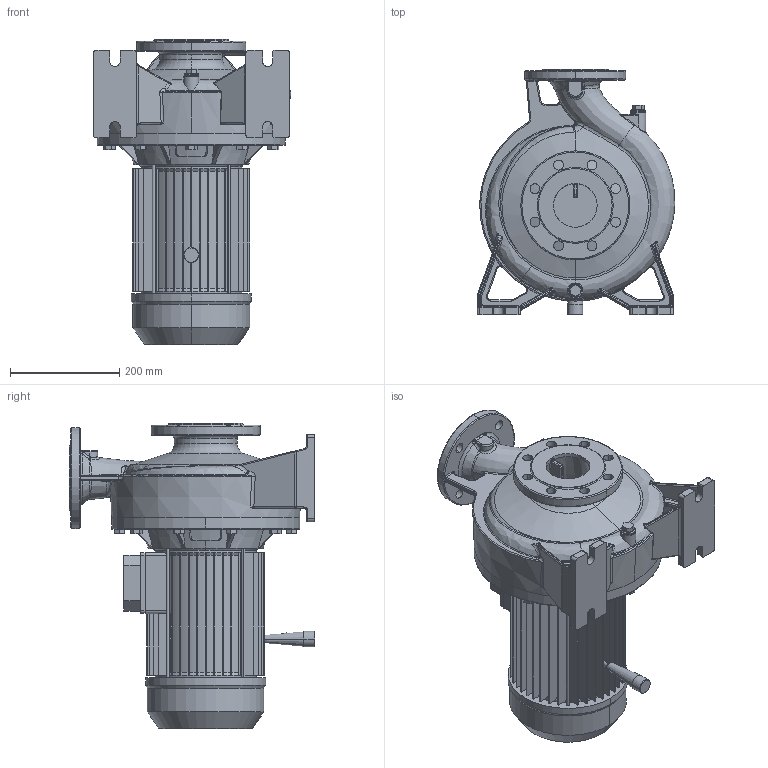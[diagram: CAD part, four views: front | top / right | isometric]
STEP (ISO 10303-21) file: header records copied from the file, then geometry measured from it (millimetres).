
FILE_DESCRIPTION((''),'2;1');
FILE_NAME('3M4_65-250_4_IE2_ASM','2012-03-14T',('Rosa'),('"Ebara Pumps Europe +39.444.706811"'),'PRO/ENGINEER BY PARAMETRIC TECHNOLOGY CORPORATION, 2009360','PRO/ENGINEER BY PARAMETRIC TECHNOLOGY CORPORATION, 2009360','');
FILE_SCHEMA(('AUTOMOTIVE_DESIGN { 1 0 10303 214 1 1 1 1 }'));
Length unit declared in the file: millimetre
Products named in the file (5): CORPO_POMPA_65-250; SUPPORTO_3M_266_112; MEC_112X160_180_IE2; 72182; 3M4_65-250_4_IE2_ASM
Assembly tree (4 placements, depth 2):
  3M4_65-250_4_IE2_ASM
    CORPO_POMPA_65-250
    SUPPORTO_3M_266_112
    MEC_112X160_180_IE2
    72182
Bounding box: 362.55 x 450 x 559 mm (x, y, z)
Volume: 17740941.4 mm3; surface area: 1612453.8 mm2
Topology: 4 solids, 4 shells, 1242 faces, 2973 edges, 1773 vertices
Faces by surface type: plane 478, cylinder 298, bspline 227, torus 113, cone 105, sphere 21
Entity records: 58460 total; most frequent: CARTESIAN_POINT 21158, ORIENTED_EDGE 5946, DIRECTION 5368, EDGE_CURVE 2973, PRESENTATION_STYLE_ASSIGNMENT 2962, STYLED_ITEM 2962, CURVE_STYLE 2959, AXIS2_PLACEMENT_3D 2075
